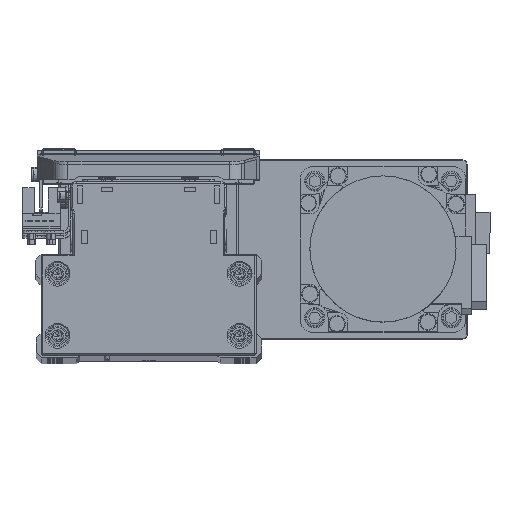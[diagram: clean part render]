
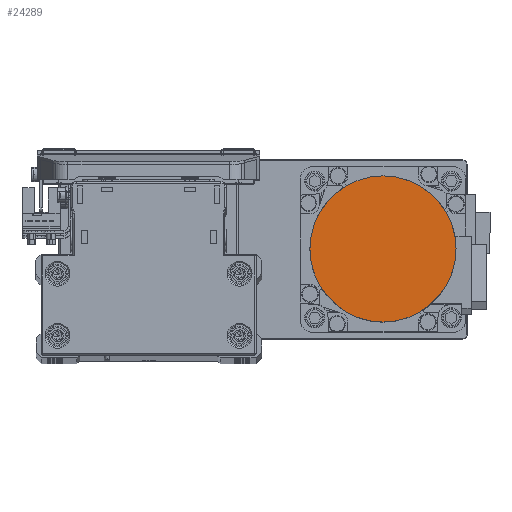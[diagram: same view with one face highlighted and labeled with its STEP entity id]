
A CAD part, top view. The second image highlights one B-rep face of the part: STEP entity #24289.
In plain terms, the highlighted planar face has unit normal (0, 0, 1) as drawn and (0, 0, -1) by its records, which use the part's own axes.
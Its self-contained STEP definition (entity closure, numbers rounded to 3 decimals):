
#395 = AXIS2_PLACEMENT_3D ( 'NONE', #29653, #754, #13631 ) ;
#754 = DIRECTION ( 'NONE',  ( 0., 0., 1. ) ) ;
#1413 = EDGE_LOOP ( 'NONE', ( #34434, #38740 ) ) ;
#1534 = AXIS2_PLACEMENT_3D ( 'NONE', #36224, #7296, #20162 ) ;
#2158 = EDGE_CURVE ( 'NONE', #34018, #32735, #19729, .T. ) ;
#3928 = FACE_OUTER_BOUND ( 'NONE', #1413, .T. ) ;
#5770 = EDGE_CURVE ( 'NONE', #32735, #34018, #31131, .T. ) ;
#7296 = DIRECTION ( 'NONE',  ( 0., 0., 1. ) ) ;
#11001 = DIRECTION ( 'NONE',  ( 0., 0., 1. ) ) ;
#12940 = AXIS2_PLACEMENT_3D ( 'NONE', #39929, #11001, #23880 ) ;
#13631 = DIRECTION ( 'NONE',  ( 1., 0., 0. ) ) ;
#15618 = CARTESIAN_POINT ( 'NONE',  ( -26.5, 0., -109.7 ) ) ;
#16776 = PLANE ( 'NONE',  #395 ) ;
#19729 = CIRCLE ( 'NONE', #1534, 26.5 ) ;
#20162 = DIRECTION ( 'NONE',  ( 1., 0., 0. ) ) ;
#23880 = DIRECTION ( 'NONE',  ( -1., 0., 0. ) ) ;
#24289 = ADVANCED_FACE ( 'NONE', ( #3928 ), #16776, .F. ) ;
#25123 = CARTESIAN_POINT ( 'NONE',  ( 26.5, 0., -109.7 ) ) ;
#29653 = CARTESIAN_POINT ( 'NONE',  ( 0., 0., -109.7 ) ) ;
#31131 = CIRCLE ( 'NONE', #12940, 26.5 ) ;
#32735 = VERTEX_POINT ( 'NONE', #15618 ) ;
#34018 = VERTEX_POINT ( 'NONE', #25123 ) ;
#34434 = ORIENTED_EDGE ( 'NONE', *, *, #5770, .F. ) ;
#36224 = CARTESIAN_POINT ( 'NONE',  ( 0., 0., -109.7 ) ) ;
#38740 = ORIENTED_EDGE ( 'NONE', *, *, #2158, .F. ) ;
#39929 = CARTESIAN_POINT ( 'NONE',  ( 0., 0., -109.7 ) ) ;
